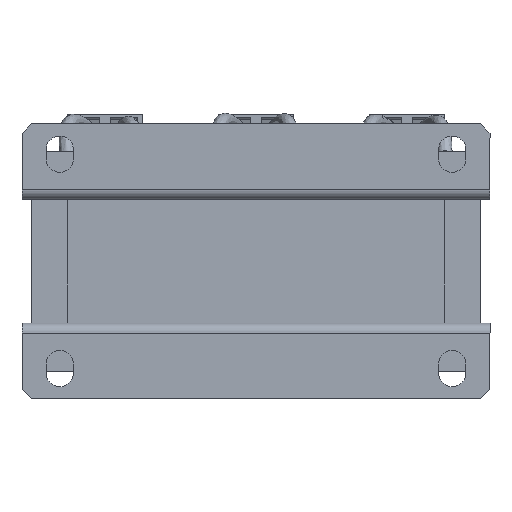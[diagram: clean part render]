
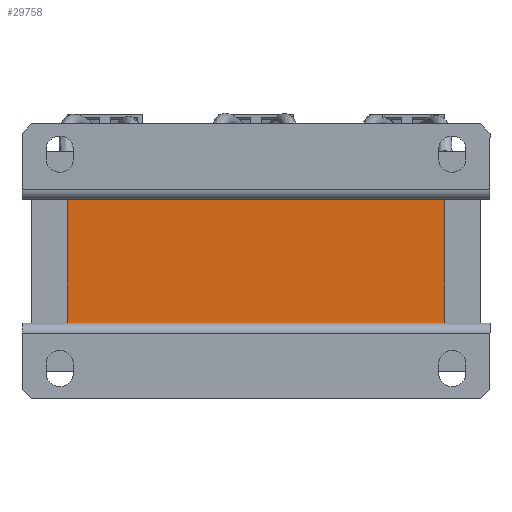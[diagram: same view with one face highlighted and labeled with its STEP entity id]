
A CAD part, front view. The second image highlights one B-rep face of the part: STEP entity #29758.
In plain terms, the highlighted planar face has unit normal (0, -1, 0).
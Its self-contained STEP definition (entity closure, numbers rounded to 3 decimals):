
#3001=LINE('',#49315,#5822);
#3072=LINE('',#49493,#5893);
#3181=LINE('',#49788,#6002);
#3184=LINE('',#49794,#6005);
#5822=VECTOR('',#38784,10.);
#5893=VECTOR('',#38961,10.);
#6002=VECTOR('',#39270,10.);
#6005=VECTOR('',#39277,10.);
#8085=FACE_OUTER_BOUND('',#9870,.T.);
#9870=EDGE_LOOP('',(#24844,#24845,#24846,#24847));
#13243=VERTEX_POINT('',#49296);
#13252=VERTEX_POINT('',#49313);
#13299=VERTEX_POINT('',#49476);
#13306=VERTEX_POINT('',#49491);
#17026=EDGE_CURVE('',#13252,#13243,#3001,.T.);
#17114=EDGE_CURVE('',#13306,#13299,#3072,.T.);
#17262=EDGE_CURVE('',#13306,#13243,#3181,.T.);
#17265=EDGE_CURVE('',#13252,#13299,#3184,.T.);
#24844=ORIENTED_EDGE('',*,*,#17265,.T.);
#24845=ORIENTED_EDGE('',*,*,#17114,.F.);
#24846=ORIENTED_EDGE('',*,*,#17262,.T.);
#24847=ORIENTED_EDGE('',*,*,#17026,.F.);
#26706=PLANE('',#32103);
#29758=ADVANCED_FACE('',(#8085),#26706,.T.);
#32103=AXIS2_PLACEMENT_3D('',#49839,#39329,#39330);
#38784=DIRECTION('',(-1.,0.,0.));
#38961=DIRECTION('',(1.,0.,0.));
#39270=DIRECTION('',(0.,0.,-1.));
#39277=DIRECTION('',(0.,0.,1.));
#39329=DIRECTION('center_axis',(0.,-1.,0.));
#39330=DIRECTION('ref_axis',(1.,0.,0.));
#49296=CARTESIAN_POINT('',(-62.5,-63.25,-20.5));
#49313=CARTESIAN_POINT('',(62.5,-63.25,-20.5));
#49315=CARTESIAN_POINT('',(62.5,-63.25,-20.5));
#49476=CARTESIAN_POINT('',(62.5,-63.25,20.5));
#49491=CARTESIAN_POINT('',(-62.5,-63.25,20.5));
#49493=CARTESIAN_POINT('',(62.5,-63.25,20.5));
#49788=CARTESIAN_POINT('',(-62.5,-63.25,0.));
#49794=CARTESIAN_POINT('',(62.5,-63.25,0.));
#49839=CARTESIAN_POINT('Origin',(-62.5,-63.25,0.));
